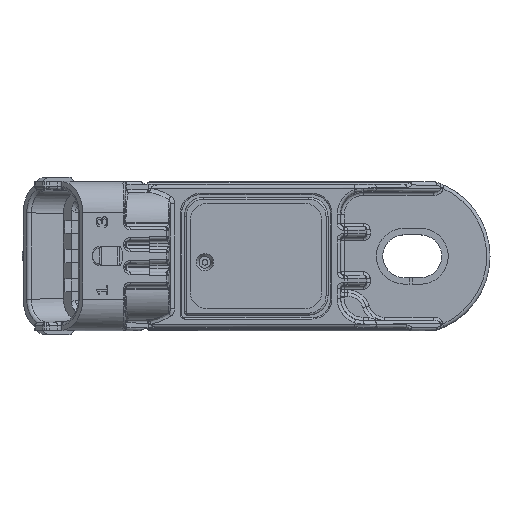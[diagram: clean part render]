
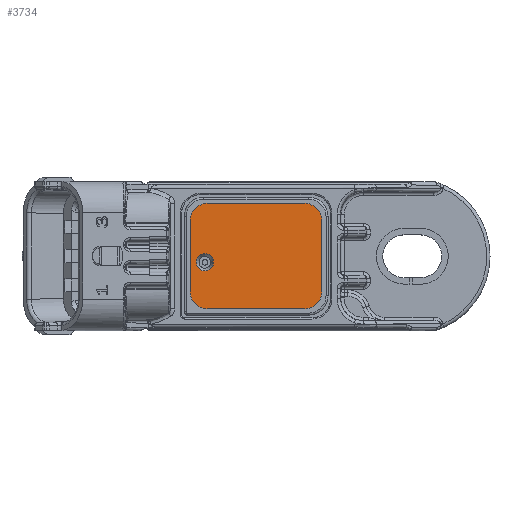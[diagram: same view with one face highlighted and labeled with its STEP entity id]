
A CAD part, top view. The second image highlights one B-rep face of the part: STEP entity #3734.
In plain terms, the highlighted planar face has unit normal (0, 0, 1).
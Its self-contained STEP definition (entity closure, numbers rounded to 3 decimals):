
#3734=ADVANCED_FACE('',(#4952,#4953),#4237,.F.);
#4237=PLANE('',#25313);
#4952=FACE_BOUND('',#6409,.T.);
#4953=FACE_BOUND('',#6410,.T.);
#6409=EDGE_LOOP('',(#14065,#14066,#14067,#14068,#14069,#14070,#14071,#14072));
#6410=EDGE_LOOP('',(#14073));
#7583=CIRCLE('',#25307,1.339);
#7584=CIRCLE('',#25309,2.65);
#7585=CIRCLE('',#25310,2.65);
#7586=CIRCLE('',#25311,2.65);
#7587=CIRCLE('',#25312,2.65);
#14065=ORIENTED_EDGE('',*,*,#19615,.T.);
#14066=ORIENTED_EDGE('',*,*,#19616,.T.);
#14067=ORIENTED_EDGE('',*,*,#19617,.T.);
#14068=ORIENTED_EDGE('',*,*,#19618,.T.);
#14069=ORIENTED_EDGE('',*,*,#19619,.T.);
#14070=ORIENTED_EDGE('',*,*,#19620,.T.);
#14071=ORIENTED_EDGE('',*,*,#19621,.T.);
#14072=ORIENTED_EDGE('',*,*,#19622,.T.);
#14073=ORIENTED_EDGE('',*,*,#19614,.F.);
#16284=VERTEX_POINT('',#44170);
#16285=VERTEX_POINT('',#44173);
#16286=VERTEX_POINT('',#44174);
#16287=VERTEX_POINT('',#44176);
#16288=VERTEX_POINT('',#44178);
#16289=VERTEX_POINT('',#44180);
#16290=VERTEX_POINT('',#44182);
#16291=VERTEX_POINT('',#44184);
#16292=VERTEX_POINT('',#44186);
#19614=EDGE_CURVE('',#16284,#16284,#7583,.T.);
#19615=EDGE_CURVE('',#16285,#16286,#7584,.T.);
#19616=EDGE_CURVE('',#16286,#16287,#21296,.T.);
#19617=EDGE_CURVE('',#16287,#16288,#7585,.T.);
#19618=EDGE_CURVE('',#16288,#16289,#21297,.T.);
#19619=EDGE_CURVE('',#16289,#16290,#7586,.T.);
#19620=EDGE_CURVE('',#16290,#16291,#21298,.T.);
#19621=EDGE_CURVE('',#16291,#16292,#7587,.T.);
#19622=EDGE_CURVE('',#16292,#16285,#21299,.T.);
#21296=LINE('',#44175,#23039);
#21297=LINE('',#44179,#23040);
#21298=LINE('',#44183,#23041);
#21299=LINE('',#44187,#23042);
#23039=VECTOR('',#31572,1.);
#23040=VECTOR('',#31575,1.);
#23041=VECTOR('',#31578,1.);
#23042=VECTOR('',#31581,1.);
#25307=AXIS2_PLACEMENT_3D('',#44169,#31566,#31567);
#25309=AXIS2_PLACEMENT_3D('',#44172,#31570,#31571);
#25310=AXIS2_PLACEMENT_3D('',#44177,#31573,#31574);
#25311=AXIS2_PLACEMENT_3D('',#44181,#31576,#31577);
#25312=AXIS2_PLACEMENT_3D('',#44185,#31579,#31580);
#25313=AXIS2_PLACEMENT_3D('',#44188,#31582,#31583);
#31566=DIRECTION('',(0.,0.,1.));
#31567=DIRECTION('',(0.,1.,0.));
#31570=DIRECTION('',(0.,0.,1.));
#31571=DIRECTION('',(-1.,0.,0.));
#31572=DIRECTION('',(0.,1.,0.));
#31573=DIRECTION('',(0.,0.,1.));
#31574=DIRECTION('',(-1.,0.,0.));
#31575=DIRECTION('',(-1.,0.,0.));
#31576=DIRECTION('',(0.,0.,1.));
#31577=DIRECTION('',(-1.,0.,0.));
#31578=DIRECTION('',(0.,-1.,0.));
#31579=DIRECTION('',(0.,0.,1.));
#31580=DIRECTION('',(-1.,0.,0.));
#31581=DIRECTION('',(1.,0.,0.));
#31582=DIRECTION('',(0.,0.,-1.));
#31583=DIRECTION('',(0.,1.,0.));
#44169=CARTESIAN_POINT('',(-11.4,-0.95,14.4));
#44170=CARTESIAN_POINT('',(-11.4,0.389,14.4));
#44172=CARTESIAN_POINT('',(4.,-5.5,14.4));
#44173=CARTESIAN_POINT('',(4.,-8.15,14.4));
#44174=CARTESIAN_POINT('',(6.65,-5.5,14.4));
#44175=CARTESIAN_POINT('',(6.65,5.5,14.4));
#44176=CARTESIAN_POINT('',(6.65,5.5,14.4));
#44177=CARTESIAN_POINT('',(4.,5.5,14.4));
#44178=CARTESIAN_POINT('',(4.,8.15,14.4));
#44179=CARTESIAN_POINT('',(-11.,8.15,14.4));
#44180=CARTESIAN_POINT('',(-11.,8.15,14.4));
#44181=CARTESIAN_POINT('',(-11.,5.5,14.4));
#44182=CARTESIAN_POINT('',(-13.65,5.5,14.4));
#44183=CARTESIAN_POINT('',(-13.65,-5.5,14.4));
#44184=CARTESIAN_POINT('',(-13.65,-5.5,14.4));
#44185=CARTESIAN_POINT('',(-11.,-5.5,14.4));
#44186=CARTESIAN_POINT('',(-11.,-8.15,14.4));
#44187=CARTESIAN_POINT('',(4.,-8.15,14.4));
#44188=CARTESIAN_POINT('',(4.,-5.5,14.4));
